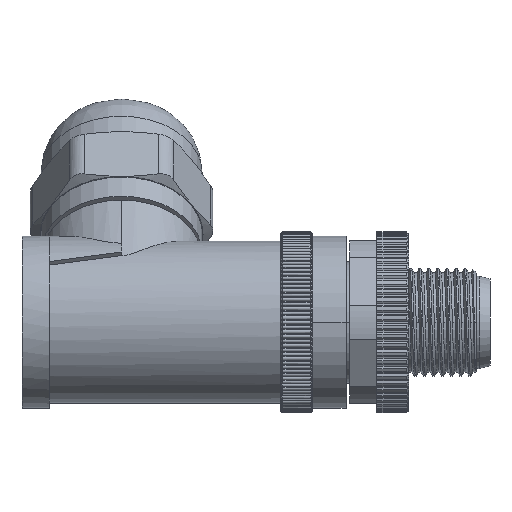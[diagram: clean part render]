
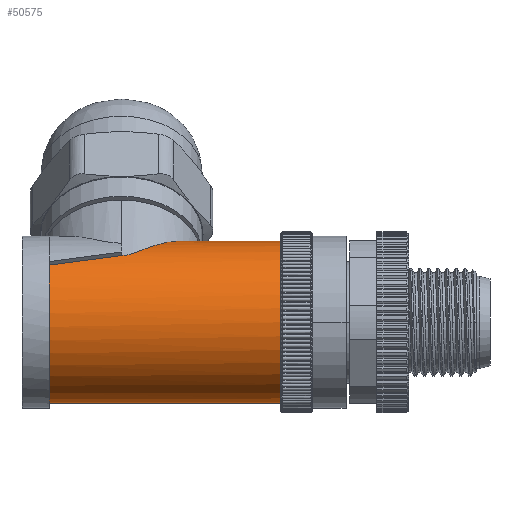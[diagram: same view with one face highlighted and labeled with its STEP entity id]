
A CAD part, left-side view. The second image highlights one B-rep face of the part: STEP entity #50575.
In plain terms, the highlighted cylindrical face has radius 8.95 mm (diameter 17.9 mm), a partial arc.
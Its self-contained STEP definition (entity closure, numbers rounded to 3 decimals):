
#11346=CARTESIAN_POINT('',(0.,16.385,
8.95));
#12261=CARTESIAN_POINT('',(0.,4.9,0.));
#12262=DIRECTION('',(0.,-1.,0.));
#12263=DIRECTION('',(0.,0.,1.));
#12264=AXIS2_PLACEMENT_3D('',#12261,#12262,#12263);
#12266=DIRECTION('',(0.,-1.,0.));
#12267=VECTOR('',#12266,25.6);
#12268=CARTESIAN_POINT('',(0.,30.5,-8.95));
#12269=LINE('',#12268,#12267);
#12270=CARTESIAN_POINT('',(0.,30.5,0.));
#12271=DIRECTION('',(0.,1.,0.));
#12272=DIRECTION('',(0.,0.,-1.));
#12273=AXIS2_PLACEMENT_3D('',#12270,#12271,#12272);
#12275=CARTESIAN_POINT('',(-5.069,22.5,7.376));
#12276=CARTESIAN_POINT('',(-5.524,25.166,
7.063));
#12277=CARTESIAN_POINT('',(-5.944,27.832,
6.713));
#12278=CARTESIAN_POINT('',(-6.329,30.5,6.329));
#12280=CARTESIAN_POINT('',(-5.069,22.5,7.376));
#12281=CARTESIAN_POINT('',(-5.069,22.31,
7.376));
#12282=CARTESIAN_POINT('',(-5.012,21.924,
7.416));
#12283=CARTESIAN_POINT('',(-4.762,21.322,
7.581));
#12284=CARTESIAN_POINT('',(-4.398,20.717,
7.8));
#12285=CARTESIAN_POINT('',(-3.939,20.091,
8.043));
#12286=CARTESIAN_POINT('',(-3.387,19.434,
8.293));
#12287=CARTESIAN_POINT('',(-2.737,18.738,
8.532));
#12288=CARTESIAN_POINT('',(-1.974,17.997,
8.743));
#12289=CARTESIAN_POINT('',(-1.081,17.214,
8.902));
#12290=CARTESIAN_POINT('',(-0.379,16.662,
8.95));
#12291=CARTESIAN_POINT('',(0.,16.385,
8.95));
#12293=DIRECTION('',(0.,-1.,0.));
#12294=VECTOR('',#12293,11.485);
#12295=CARTESIAN_POINT('',(0.,16.385,
8.95));
#12296=LINE('',#12295,#12294);
#37041=VERTEX_POINT('',#11346);
#37048=CARTESIAN_POINT('',(-6.329,30.5,6.329));
#37049=VERTEX_POINT('',#37048);
#37055=CARTESIAN_POINT('',(-5.069,22.5,7.376));
#37057=VERTEX_POINT('',#37055);
#37062=CARTESIAN_POINT('',(0.,30.5,-8.95));
#37063=VERTEX_POINT('',#37062);
#40743=CARTESIAN_POINT('',(0.,4.9,-8.95));
#40744=VERTEX_POINT('',#40743);
#40745=CARTESIAN_POINT('',(0.,4.9,8.95));
#40746=VERTEX_POINT('',#40745);
#50559=CARTESIAN_POINT('',(0.,33.5,0.));
#50560=DIRECTION('',(0.,-1.,0.));
#50561=DIRECTION('',(0.,0.,-1.));
#50562=AXIS2_PLACEMENT_3D('',#50559,#50560,#50561);
#50563=CYLINDRICAL_SURFACE('',#50562,8.95);
#50564=ORIENTED_EDGE('',*,*,#48185,.T.);
#50565=ORIENTED_EDGE('',*,*,#49525,.F.);
#50567=ORIENTED_EDGE('',*,*,#50566,.T.);
#50569=ORIENTED_EDGE('',*,*,#50568,.F.);
#50571=ORIENTED_EDGE('',*,*,#50570,.T.);
#50572=ORIENTED_EDGE('',*,*,#49515,.T.);
#50573=EDGE_LOOP('',(#50564,#50565,#50567,#50569,#50571,#50572));
#50574=FACE_OUTER_BOUND('',#50573,.F.);
#50575=ADVANCED_FACE('',(#50574),#50563,.T.);
#12265=CIRCLE('',#12264,8.95);
#12274=CIRCLE('',#12273,8.95);
#12279=B_SPLINE_CURVE_WITH_KNOTS('',3,(#12275,#12276,#12277,#12278),
.UNSPECIFIED.,.F.,.F.,(4,4),(0.,1.),.UNSPECIFIED.);
#12292=B_SPLINE_CURVE_WITH_KNOTS('',3,(#12280,#12281,#12282,#12283,#12284,
#12285,#12286,#12287,#12288,#12289,#12290,#12291),.UNSPECIFIED.,.F.,.F.,(4,1,1,
1,1,1,1,1,1,4),(0.,0.111,0.222,0.333,
0.444,0.556,0.667,0.778,
0.889,1.),.UNSPECIFIED.);
#48185=EDGE_CURVE('',#40746,#40744,#12265,.T.);
#49515=EDGE_CURVE('',#37041,#40746,#12296,.T.);
#49525=EDGE_CURVE('',#37063,#40744,#12269,.T.);
#50566=EDGE_CURVE('',#37063,#37049,#12274,.T.);
#50568=EDGE_CURVE('',#37057,#37049,#12279,.T.);
#50570=EDGE_CURVE('',#37057,#37041,#12292,.T.);
